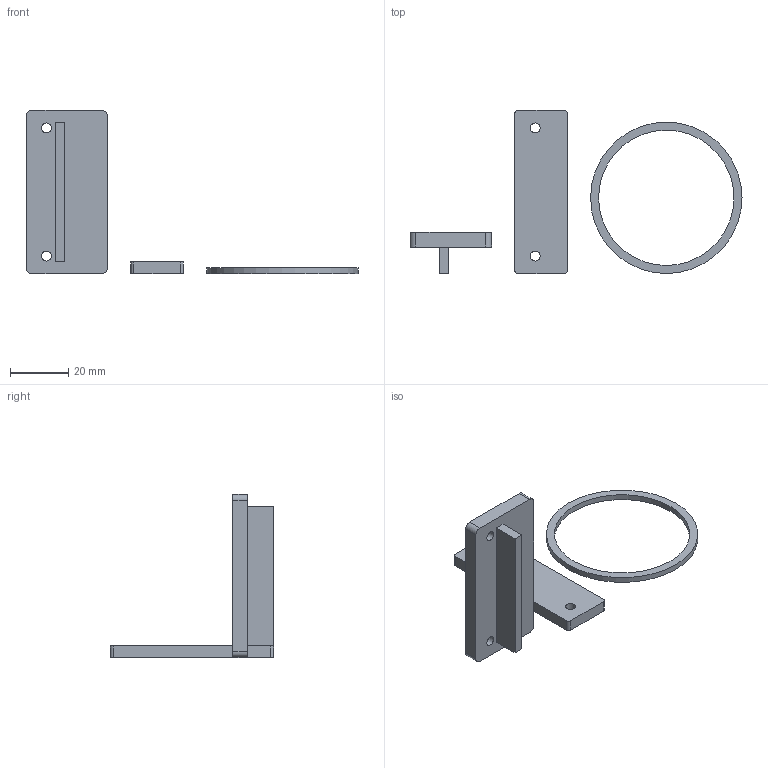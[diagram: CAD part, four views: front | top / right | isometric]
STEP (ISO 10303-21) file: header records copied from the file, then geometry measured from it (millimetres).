
FILE_DESCRIPTION(('Open CASCADE Model'),'2;1');
FILE_NAME('Open CASCADE Shape Model','2026-09-09T11:39:50',('Author'),( 'Open CASCADE'),'Open CASCADE STEP processor 7.9','Open CASCADE 7.9' ,'Unknown');
FILE_SCHEMA(('AUTOMOTIVE_DESIGN { 1 0 10303 214 1 1 1 1 }'));
Length unit declared in the file: millimetre
Products named in the file (4): Open CASCADE STEP translator 7.9 5; Open CASCADE STEP translator 7.9 5.1; Open CASCADE STEP translator 7.9 5.2; Open CASCADE STEP translator 7.9 5.3
Assembly tree (3 placements, depth 2):
  Open CASCADE STEP translator 7.9 5
    Open CASCADE STEP translator 7.9 5.1
    Open CASCADE STEP translator 7.9 5.2
    Open CASCADE STEP translator 7.9 5.3
Bounding box: 114 x 56 x 56 mm (x, y, z)
Volume: 13815.1 mm3; surface area: 9112.4 mm2
Topology: 3 solids, 3 shells, 47 faces, 114 edges, 76 vertices
Faces by surface type: plane 33, cylinder 14
Full cylindrical faces by diameter (mm): 3.4 x4, 46.5 x1, 52 x1
Entity records: 2992 total; most frequent: CARTESIAN_POINT 577, DIRECTION 454, LINE 286, VECTOR 286, ORIENTED_EDGE 228, PCURVE 228, DEFINITIONAL_REPRESENTATION 228, EDGE_CURVE 114
